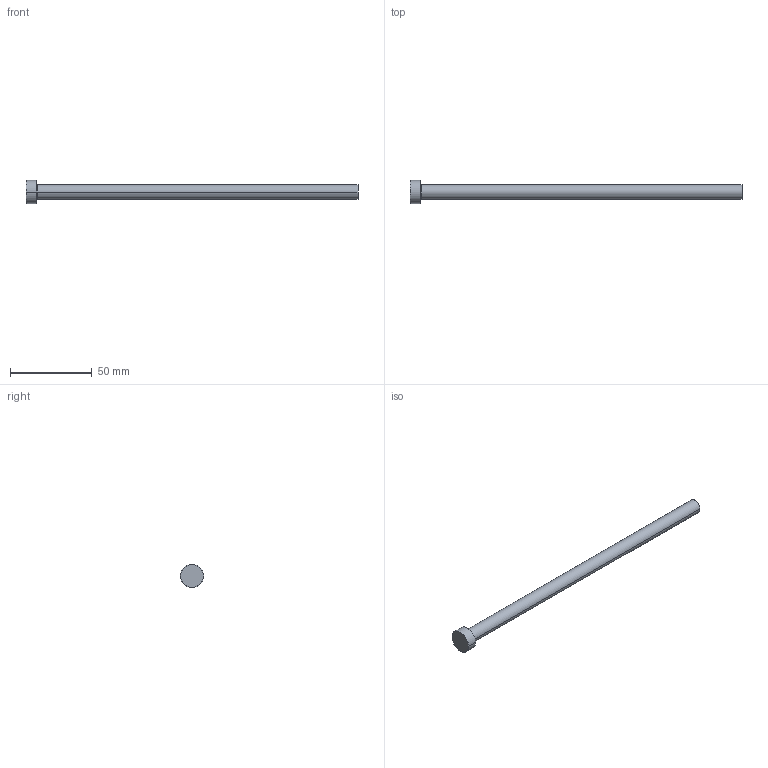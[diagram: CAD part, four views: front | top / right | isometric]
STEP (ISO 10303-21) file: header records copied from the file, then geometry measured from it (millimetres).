
FILE_DESCRIPTION (( 'STEP AP214' ), '1' );
FILE_NAME ('P23-8.STEP', '2020-03-12T09:43:02', ( '' ), ( '' ), 'SwSTEP 2.0', 'SolidWorks 2018', '' );
FILE_SCHEMA (( 'AUTOMOTIVE_DESIGN' ));
Length unit declared in the file: inch
Products named in the file (1): P23-8
Bounding box: 203.2 x 14.29 x 14.29 mm (x, y, z)
Volume: 12786.9 mm3; surface area: 5986.5 mm2
Topology: 1 solids, 1 shells, 13 faces, 24 edges, 14 vertices
Faces by surface type: cone 4, cylinder 4, plane 3, torus 2
Entity records: 366 total; most frequent: DIRECTION 68, CARTESIAN_POINT 52, ORIENTED_EDGE 48, AXIS2_PLACEMENT_3D 30, EDGE_CURVE 24, CIRCLE 16, EDGE_LOOP 14, VERTEX_POINT 14
